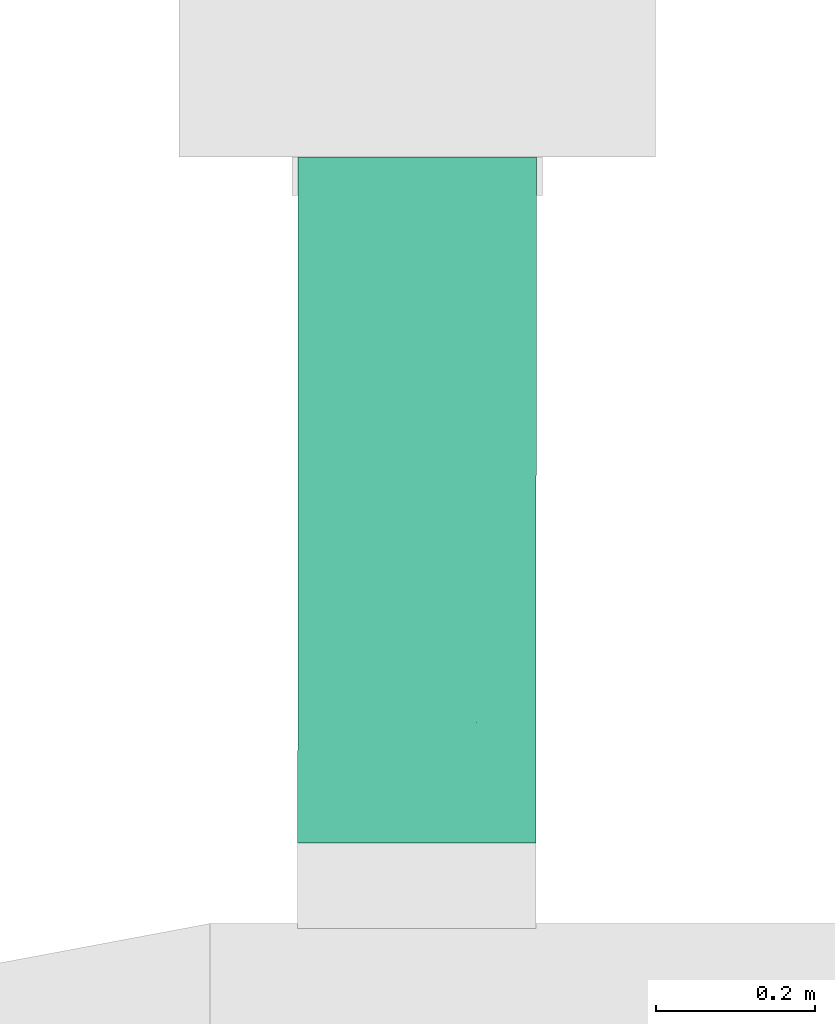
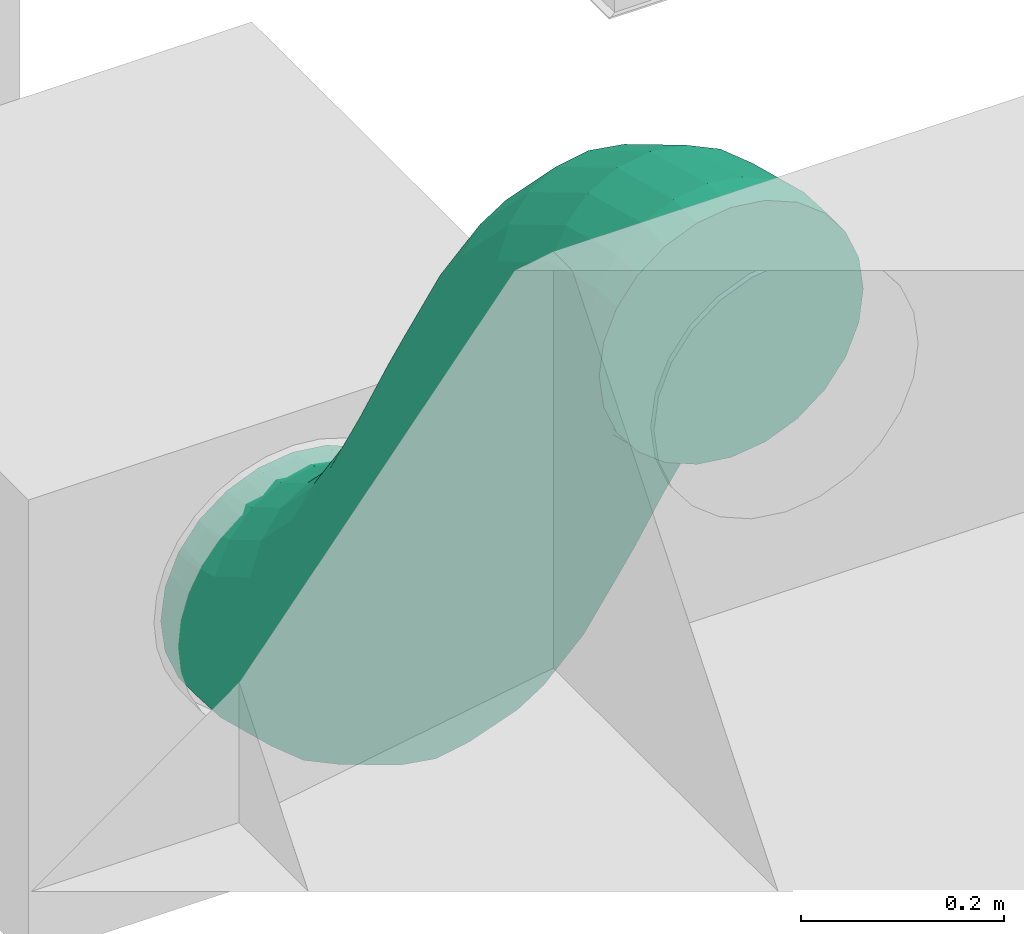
# One storey, part 52 of 60: 1 flow segment.
"""IFC2X3 building model written with IfcOpenShell, lengths in millimetres."""

from ifc_helpers import new_model, entity, si_unit, converted_unit, derived_unit, direction, frame, origin, place, context, subcontext, project, spatial, faceted_brep, type_object, element, save


model = new_model("IFC2X3")

# Units and contexts
model_context = context("Model", 3, precision=0.01, world=origin(), true_north=direction((6.123233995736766e-17, 1.0)))
body_context = subcontext(model_context, "Body", "Model", "MODEL_VIEW")
ifc_project = project(units=[si_unit("LENGTHUNIT", "METRE", prefix="MILLI"), converted_unit("PLANEANGLEUNIT", "DEGREE", entity("IfcPlaneAngleMeasure", 0.017453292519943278), si_unit("PLANEANGLEUNIT", "RADIAN"), dimensions=[0, 0, 0, 0, 0, 0, 0]), si_unit("AREAUNIT", "SQUARE_METRE"), derived_unit("THERMALTRANSMITTANCEUNIT", [(si_unit("MASSUNIT", "GRAM", prefix="KILO"), 1), (si_unit("THERMODYNAMICTEMPERATUREUNIT", "KELVIN"), -1), (si_unit("TIMEUNIT", "SECOND"), -3)])], contexts=[model_context])

# Site, building, storey
site_placement = place(None, origin())
site = spatial("IfcSite", under=ifc_project, at=site_placement, Name="Default", CompositionType="ELEMENT")
building_placement = place(site_placement, origin())
building = spatial("IfcBuilding", under=site, at=building_placement, Name="Praça Pedro II, 1301 - Centro (Sul), Teresina - PI, 64001-100", CompositionType="ELEMENT")
storey_placement = place(building_placement, frame((0.0, 0.0, 6040.0)))
storey = spatial("IfcBuildingStorey", under=building, at=storey_placement, Name="2PAV", CompositionType="ELEMENT", Elevation=6040.0)

# Flow segment
duct_segment_type = type_object("IfcDuctSegmentType", Name="Duto flexível redondo:Flexível - Redondo", PredefinedType="FLEXIBLESEGMENT")
flow_segment_placement = place(storey_placement, frame((26360.48269014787, -57784.321277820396, 2510.904727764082)))
element("IfcFlowSegment", 1, at=flow_segment_placement, inside=storey, type_object=duct_segment_type, Name="Duto flexível redondo:Flexível - Redondo", ObjectType="Duto flexível redondo:Flexível - Redondo", context=body_context, shape_type="Brep", body=[
    faceted_brep([(46.10899363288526, 863.4202829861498, 257.66128941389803), (77.17501081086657, 863.4202829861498, 281.4990828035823), (113.35215404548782, 863.4202829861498, 296.48414617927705), (152.17501081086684, 863.4202829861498, 301.595272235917), (190.99786757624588, 863.4202829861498, 296.48414617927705), (227.17501081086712, 863.4202829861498, 281.4990828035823), (258.24102798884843, 863.4202829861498, 257.66128941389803), (282.07882137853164, 863.4202829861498, 226.59527223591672), (297.06388475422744, 863.4202829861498, 190.4181290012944), (302.1750108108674, 863.4202829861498, 151.59527223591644), (297.06388475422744, 863.4202829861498, 112.7724154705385), (282.07882137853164, 863.4202829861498, 76.59527223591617), (258.24102798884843, 863.4202829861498, 45.52925505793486), (227.17501081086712, 863.4202829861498, 21.691461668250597), (190.99786757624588, 863.4202829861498, 6.706398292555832), (152.17501081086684, 863.4202829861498, 1.5952722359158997), (113.35215404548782, 863.4202829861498, 6.706398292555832), (77.17501081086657, 863.4202829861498, 21.691461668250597), (46.10899363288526, 863.4202829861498, 45.529255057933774), (22.271200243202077, 863.4202829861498, 76.59527223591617), (7.2861368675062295, 863.4202829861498, 112.77241547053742), (2.175010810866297, 863.4202829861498, 151.59527223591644), (7.2861368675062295, 863.4202829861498, 190.4181290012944), (22.271200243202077, 863.4202829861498, 226.59527223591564), (297.06388475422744, 830.4814451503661, 112.77241547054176), (282.07882137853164, 825.817225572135, 76.59527223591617), (258.24102798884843, 821.8129726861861, 45.52925505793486), (302.1750108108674, 835.487772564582, 151.5952722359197), (227.17501081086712, 818.7415697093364, 21.69146166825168), (190.99786757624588, 816.8123276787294, 6.706398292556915), (152.17501081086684, 816.1567212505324, 1.5952722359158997), (113.35215404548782, 816.819428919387, 6.706398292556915), (77.17501081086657, 818.7552882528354, 21.69146166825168), (46.10899363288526, 821.832373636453, 45.52925505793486), (22.271200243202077, 825.8409867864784, 76.59527223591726), (7.2861368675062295, 830.5079473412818, 112.77241547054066), (2.175010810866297, 835.51520965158, 151.59527223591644), (7.2861368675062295, 840.5215370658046, 190.4181290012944), (22.271200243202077, 845.1857566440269, 226.59527223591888), (46.10899363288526, 849.1900095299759, 257.6612894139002), (113.35215404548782, 854.1906545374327, 296.48414617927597), (152.17501081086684, 854.8462609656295, 301.595272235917), (77.17501081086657, 852.2614125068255, 281.4990828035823), (227.1750108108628, 852.2476939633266, 281.4990828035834), (258.2410279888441, 849.1706085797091, 257.6612894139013), (190.99786757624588, 854.1835532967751, 296.48414617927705), (297.06388475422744, 840.4950348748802, 190.41812900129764), (282.07882137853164, 845.1619954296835, 226.59527223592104), (151.5952722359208, 0.0, 1119.0952722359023), (112.77241547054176, 0.0, 1113.9841461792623), (76.5952722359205, 0.0, 1098.9990828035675), (45.52925505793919, 0.0, 1075.1612894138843), (21.69146166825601, 0.0, 1044.095272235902), (6.706398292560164, 0.0, 1007.9181290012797), (1.5952722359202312, 0.0, 969.0952722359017), (6.706398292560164, 0.0, 930.2724154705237), (21.69146166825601, 0.0, 894.0952722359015), (45.52925505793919, 0.0, 863.0292550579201), (76.5952722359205, 0.0, 839.1914616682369), (112.77241547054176, 0.0, 824.2063982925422), (151.5952722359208, 0.0, 819.0952722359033), (190.4181290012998, 0.0, 824.2063982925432), (226.59527223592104, 0.0, 839.1914616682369), (257.66128941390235, 0.0, 863.0292550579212), (281.49908280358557, 0.0, 894.0952722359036), (296.4841461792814, 0.0, 930.2724154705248), (301.59527223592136, 0.0, 969.0952722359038), (296.4841461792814, 0.0, 1007.9181290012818), (281.49908280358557, 0.0, 1044.0952722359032), (257.66128941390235, 0.0, 1075.1612894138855), (226.59527223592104, 0.0, 1098.9990828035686), (190.4181290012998, 0.0, 1113.9841461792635), (302.161503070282, 762.8684763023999, 170.64278504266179), (297.0484832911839, 747.6812610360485, 134.4903010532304), (282.06165560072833, 733.5318654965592, 100.80105042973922), (258.22234753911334, 721.3845476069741, 71.87089992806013), (227.15516855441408, 712.0671270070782, 49.671391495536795), (190.97729555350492, 706.2145705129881, 35.71538494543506), (152.15419079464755, 704.225720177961, 30.95395906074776), (113.33158470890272, 706.2361128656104, 35.7115971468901), (77.15517374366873, 712.1087436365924, 49.66407403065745), (46.090320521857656, 721.4434024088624, 71.86055146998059), (22.254043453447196, 733.6039476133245, 100.78837620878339), (7.270745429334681, 747.7616581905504, 134.47616479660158), (2.161513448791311, 762.9517095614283, 170.62815011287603), (7.27453322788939, 778.1389248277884, 206.78063410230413), (22.26136091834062, 792.2883203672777, 240.469884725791), (46.10066897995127, 804.4356382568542, 269.4000352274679), (77.1678479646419, 813.75305885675, 291.59954365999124), (113.34572096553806, 819.6056153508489, 305.555550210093), (152.16882572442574, 821.5944656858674, 310.31697609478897), (190.99143181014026, 819.5840729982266, 305.5593380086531), (227.16784277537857, 813.7114422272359, 291.6068611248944), (258.23269599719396, 804.3767834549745, 269.4103836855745), (297.0522710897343, 778.0585276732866, 206.79477035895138), (282.0689730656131, 792.2162382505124, 240.48255894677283), (302.1244695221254, 675.544170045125, 222.86447066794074), (297.00764587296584, 651.3875113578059, 192.07589364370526), (282.0172742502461, 628.881600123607, 163.38400691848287), (258.17492370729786, 609.5601770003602, 138.74411515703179), (227.10541103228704, 594.7399650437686, 119.83538626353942), (190.9260721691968, 585.4309372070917, 107.94641886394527), (152.10246927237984, 582.2674883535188, 103.88742643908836), (113.28036672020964, 585.4652022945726, 107.93502261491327), (77.10542664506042, 594.8061601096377, 119.81337040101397), (46.04291143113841, 609.6537909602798, 138.71298002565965), (22.20968015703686, 628.9962533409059, 163.34587432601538), (7.229928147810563, 651.5153904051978, 192.0333622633), (2.1245007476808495, 675.6765601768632, 222.82043894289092), (7.241324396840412, 699.8332188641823, 253.6090159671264), (22.23169601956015, 722.3391300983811, 282.3009026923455), (46.074046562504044, 741.6605532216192, 306.94079445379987), (77.14355923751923, 756.4807651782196, 325.84952334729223), (113.32289810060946, 765.7897930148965, 337.7384907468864), (152.14650099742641, 768.9532418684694, 341.7974831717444), (190.96860354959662, 765.7555279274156, 337.74988699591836), (227.14354362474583, 756.4145701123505, 325.87153920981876), (258.20605883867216, 741.5669392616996, 306.9719295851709), (297.0190421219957, 699.7053398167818, 253.65154734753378), (282.03929011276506, 722.2244768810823, 282.3390352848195), (302.0691416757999, 598.5040095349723, 300.8832817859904), (296.94832476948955, 568.7870192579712, 275.725669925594), (281.95423276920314, 541.1007421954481, 252.27995585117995), (258.1086882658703, 517.3319523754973, 232.14392623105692), (227.03672571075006, 499.1004535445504, 216.68981820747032), (190.85584800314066, 487.6486922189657, 206.97080370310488), (152.03172216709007, 483.7570870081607, 203.64921749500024), (113.2101482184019, 487.69084437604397, 206.95142019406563), (77.03675226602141, 499.181885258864, 216.65237214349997), (45.97669146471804, 517.447114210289, 232.09096949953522), (22.14665762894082, 541.2417860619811, 252.21509736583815), (7.170628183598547, 568.9443332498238, 275.65332968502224), (2.069194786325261, 598.6668729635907, 300.8083896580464), (7.190011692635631, 628.3838632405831, 325.9660015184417), (22.184103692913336, 656.0701403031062, 349.4117155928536), (46.02964819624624, 679.838930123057, 369.5477452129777), (77.1016107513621, 698.0704289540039, 385.00185323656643), (113.28248845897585, 709.5221902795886, 394.72086774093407), (152.1066142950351, 713.4137954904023, 398.0424539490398), (190.9281882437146, 709.4800381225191, 394.74025124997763), (227.10158419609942, 697.9889972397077, 385.03929930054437), (258.1616449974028, 679.7237682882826, 369.6007019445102), (296.96770827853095, 628.2265492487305, 326.03834175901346), (281.9916788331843, 655.9290964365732, 349.4765740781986), (302.00075064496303, 528.8109535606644, 397.3227290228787), (296.87732745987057, 496.4380662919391, 375.8402786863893), (281.8808072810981, 466.27738319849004, 355.81858364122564), (258.0331781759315, 440.3843049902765, 338.62208931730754), (226.95961665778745, 420.5234021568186, 325.4227083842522), (190.7777345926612, 408.0481624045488, 317.1199568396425), (151.95326744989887, 403.80875270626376, 314.2796534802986), (113.13203850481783, 408.0940818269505, 317.0953602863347), (76.95965035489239, 420.61211166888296, 325.3751914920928), (45.901191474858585, 440.5097591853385, 338.55489028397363), (22.073244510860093, 466.4310325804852, 355.7362819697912), (7.099644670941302, 496.60943990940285, 375.7484830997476), (2.0008180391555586, 528.9883725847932, 397.22769523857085), (7.124241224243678, 561.3612598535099, 418.7101455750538), (22.120761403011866, 591.5219429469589, 438.73184062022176), (45.96839050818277, 617.4150211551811, 455.9283349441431), (77.04195202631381, 637.2759239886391, 469.12771587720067), (113.2238340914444, 649.7511637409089, 477.4304674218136), (152.04830123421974, 653.9905734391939, 480.2707707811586), (190.86953017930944, 649.7052443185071, 477.45506397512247), (227.04191832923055, 637.1872144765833, 469.17523276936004), (258.10037720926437, 617.2895669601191, 455.99553397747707), (296.90192401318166, 561.1898862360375, 418.8019411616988), (281.9283241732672, 591.3682935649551, 438.81414229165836), (301.9245231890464, 463.5257715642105, 504.81246303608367), (296.7998680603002, 430.09778328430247, 485.0671990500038), (281.8022001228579, 398.9540996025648, 466.66397956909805), (257.9535856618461, 372.21711109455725, 450.85695358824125), (226.8792683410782, 351.7088993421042, 438.72334380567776), (190.69691153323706, 338.82706508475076, 431.09003567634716), (151.87228306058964, 334.44948403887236, 428.47722653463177), (113.05121719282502, 338.87448111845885, 431.0629750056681), (76.87930541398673, 351.8005000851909, 438.6710666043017), (45.8216037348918, 372.34665410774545, 450.7830224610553), (21.994643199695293, 399.1127567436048, 466.57343280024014), (7.02219179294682, 430.27474233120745, 484.9662072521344), (1.9245973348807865, 463.70897305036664, 504.7079086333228), (7.049252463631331, 497.13696133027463, 524.453172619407), (22.046920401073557, 528.2806450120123, 542.8563921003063), (45.89553486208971, 555.0176335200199, 558.6634180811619), (76.96985218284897, 575.5258452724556, 570.7970278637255), (113.15220899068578, 588.4076795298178, 578.4303359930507), (151.97683746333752, 592.785260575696, 581.0431451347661), (190.79790333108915, 588.3602634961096, 578.4573966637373), (226.96981510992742, 575.4342445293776, 570.8493050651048), (258.027516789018, 554.8880905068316, 558.7373492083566), (296.8269287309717, 496.96000228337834, 524.5541644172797), (281.85447732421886, 528.121987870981, 542.9469388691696), (296.72103058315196, 366.28332165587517, 596.2373718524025), (281.72336264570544, 335.13963797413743, 577.8341523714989), (301.84568571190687, 399.71130993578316, 615.9826358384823), (257.8747481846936, 308.40264946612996, 562.0271263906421), (226.80043086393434, 287.8944377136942, 549.8935166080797), (190.61807405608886, 275.01260345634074, 542.2602084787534), (151.7934455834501, 270.63502241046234, 539.6473993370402), (112.97237971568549, 275.06001949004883, 542.2331478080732), (76.80046793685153, 287.98603845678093, 549.8412394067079), (45.74276625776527, 308.5321924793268, 561.9531952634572), (6.943354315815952, 366.46028070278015, 596.136380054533), (1.8457598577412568, 399.8945114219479, 615.8780814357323), (21.91580572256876, 335.2982951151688, 577.74360560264), (6.970414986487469, 433.3224997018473, 635.6233454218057), (21.968082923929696, 464.466183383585, 654.0265649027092), (45.81669738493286, 491.20317189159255, 669.8335908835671), (76.89101470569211, 511.7113836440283, 681.9672006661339), (113.07337151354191, 524.593217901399, 689.6005087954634), (151.897999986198, 528.9707989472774, 692.2133179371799), (190.71906585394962, 524.5458018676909, 689.6275694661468), (226.89097763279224, 511.61978290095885, 682.0194778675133), (257.9486793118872, 491.073628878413, 669.9075220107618), (281.77563984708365, 464.3075262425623, 654.1171116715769), (296.7480912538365, 433.14554065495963, 635.7243372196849), (296.64604182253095, 302.05902313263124, 701.9803988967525), (281.6495216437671, 271.8983400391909, 681.9587038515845), (301.7694650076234, 334.43191040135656, 723.462849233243), (257.80189253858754, 246.00526183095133, 664.7622095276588), (226.7283310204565, 226.1443589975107, 651.5628285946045), (190.5464489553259, 213.6691192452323, 643.2600770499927), (151.72198181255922, 209.4297095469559, 640.4197736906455), (112.9007528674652, 213.7150386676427, 643.2354804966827), (76.72836471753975, 226.2330685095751, 651.5153117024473), (45.669905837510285, 246.13071602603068, 664.6950104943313), (6.8683590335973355, 302.23039675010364, 701.8886033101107), (1.7695324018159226, 334.6093294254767, 723.3678154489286), (21.841958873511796, 272.051989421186, 681.8764021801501), (6.892955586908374, 366.982216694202, 744.8502657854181), (21.889475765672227, 397.1428997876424, 764.8719608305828), (45.73710487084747, 423.0359779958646, 782.0684551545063), (76.8106663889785, 442.8968808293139, 795.2678360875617), (112.9925484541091, 455.3721205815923, 803.5705876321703), (151.8170155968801, 459.61153027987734, 806.4108909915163), (190.63824454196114, 455.3262011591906, 803.5951841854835), (226.81063269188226, 442.80817131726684, 795.3153529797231), (257.86909157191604, 422.91052380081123, 782.1356541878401), (281.6970385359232, 396.9892504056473, 764.9542625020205), (296.67063837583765, 366.8108430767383, 744.9420613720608), (296.58027135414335, 235.03641974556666, 794.7245429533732), (281.58617935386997, 207.3501426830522, 771.2788288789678), (301.70108826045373, 264.7534100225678, 819.8821548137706), (257.74063485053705, 183.5813528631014, 751.1427992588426), (226.6686722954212, 165.34985403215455, 735.6886912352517), (190.48779458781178, 153.89809270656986, 725.9696767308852), (151.66366875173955, 150.00648749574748, 722.6480905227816), (112.84209480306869, 153.9402448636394, 725.9502932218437), (76.66869885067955, 165.43128574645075, 735.6512451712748), (45.60863804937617, 183.69651469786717, 751.089842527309), (6.802574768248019, 235.19373373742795, 794.652202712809), (1.7011413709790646, 264.91627345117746, 819.8072626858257), (21.778604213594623, 207.49118654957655, 771.2139703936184), (6.821958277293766, 294.6332637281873, 844.9648745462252), (21.81605027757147, 322.3195407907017, 868.4105886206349), (45.66159478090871, 346.0883306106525, 888.5466182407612), (76.73355733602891, 364.3198294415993, 904.00072626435), (112.9144350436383, 375.771590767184, 913.7197407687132), (151.73856087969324, 379.66319597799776, 917.0413269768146), (190.56013482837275, 375.72943861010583, 913.7391242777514), (226.7335307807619, 364.2383977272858, 904.0381723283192), (257.7935915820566, 345.9731687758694, 888.5995749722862), (281.6236254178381, 322.17849692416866, 868.4754471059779), (296.59965486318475, 294.47594973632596, 845.0372147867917), (296.52895864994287, 163.58706412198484, 867.081528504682), (281.5385870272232, 141.08115288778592, 838.3896417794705), (301.64578229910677, 187.74372280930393, 897.8701055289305), (257.69623648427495, 121.75972976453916, 813.749750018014), (226.62672380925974, 106.93951780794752, 794.8410211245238), (190.4473849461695, 97.63048997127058, 782.9520537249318), (151.6237820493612, 94.46704111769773, 778.8930613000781), (112.80167949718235, 97.66475505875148, 782.940657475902), (76.62673942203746, 107.00571287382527, 794.8190052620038), (45.56422420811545, 121.85334372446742, 813.7186148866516), (6.751240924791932, 163.71494316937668, 867.0389971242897), (1.6458135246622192, 187.8761129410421, 897.826073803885), (21.73099293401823, 141.1958061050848, 838.3515091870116), (6.762637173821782, 212.0327716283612, 928.6146508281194), (21.753008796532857, 234.53868286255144, 957.3065375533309), (45.595359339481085, 253.8601059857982, 981.9464293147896), (76.66487201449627, 268.6803179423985, 1000.855158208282), (112.84421087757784, 277.9893457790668, 1012.7441256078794), (151.6678137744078, 281.1527946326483, 1016.8031180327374), (190.48991632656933, 277.95508069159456, 1012.7555218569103), (226.66485640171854, 268.6141228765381, 1000.8771740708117), (257.72737161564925, 253.76649202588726, 981.9775644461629), (281.56060288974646, 234.42402964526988, 957.3446701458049), (296.54035489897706, 211.90489258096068, 928.6571822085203), (296.49574981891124, 85.28135815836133, 913.9099103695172), (281.50892212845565, 71.1319626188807, 880.220659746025), (301.608769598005, 100.46857342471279, 950.0623943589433), (257.66961406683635, 58.98464472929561, 851.2905092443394), (226.60243508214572, 49.66722412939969, 829.0910008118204), (190.4245620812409, 43.8146676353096, 815.1349942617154), (151.60145732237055, 41.82581730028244, 810.3735683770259), (112.7788512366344, 43.8362099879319, 815.1312064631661), (76.60244027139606, 49.70884075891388, 829.0836833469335), (45.53758704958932, 59.043499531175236, 851.2801607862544), (6.7180119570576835, 85.36175531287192, 913.8957741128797), (1.6087799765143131, 100.55180668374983, 950.0477594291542), (21.70130998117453, 71.20404473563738, 880.2079855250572), (6.721799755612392, 115.73902195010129, 986.2002434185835), (21.708627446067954, 129.88841748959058, 1019.8894940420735), (45.54793550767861, 142.035735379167, 1048.8196445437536), (76.61511449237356, 151.35315597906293, 1071.0191529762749), (112.79298749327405, 157.20571247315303, 1084.9751595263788), (151.61609225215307, 159.19456280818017, 1089.7365854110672), (190.43869833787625, 157.18417012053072, 1084.9789473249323), (226.61510930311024, 151.31153934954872, 1071.0264704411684), (257.67996252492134, 141.97688057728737, 1048.8299930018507), (281.51623959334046, 129.81633537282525, 1019.9021682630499), (296.4995376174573, 115.65862479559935, 986.2143796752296), (296.4841461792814, 22.89874592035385, 930.272415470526), (281.49908280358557, 18.23452634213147, 894.0952722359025), (301.59527223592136, 27.90507333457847, 969.0952722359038), (257.66128941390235, 14.230273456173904, 863.0292550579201), (226.59527223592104, 11.158870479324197, 839.1914616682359), (190.4181290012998, 9.229628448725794, 824.206398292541), (151.5952722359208, 8.5740220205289, 819.0952722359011), (112.77241547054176, 9.236729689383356, 824.206398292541), (76.5952722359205, 11.172589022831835, 839.1914616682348), (45.52925505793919, 14.24967440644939, 863.0292550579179), (6.706398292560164, 22.925248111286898, 930.2724154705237), (1.5952722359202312, 27.93251042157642, 969.0952722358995), (21.69146166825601, 18.258287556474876, 894.0952722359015), (6.706398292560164, 32.938837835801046, 1007.9181290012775), (21.69146166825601, 37.60305741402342, 1044.095272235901), (45.52925505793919, 41.60731029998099, 1075.1612894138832), (76.5952722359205, 44.6787132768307, 1098.9990828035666), (112.77241547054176, 46.6079553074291, 1113.9841461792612), (151.5952722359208, 47.26356173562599, 1119.0952722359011), (190.41812900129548, 46.60085406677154, 1113.9841461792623), (226.59527223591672, 44.66499473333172, 1098.9990828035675), (257.66128941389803, 41.587909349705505, 1075.1612894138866), (281.49908280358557, 37.579296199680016, 1044.0952722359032), (296.4841461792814, 32.912335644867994, 1007.918129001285)], [[[0, 1, 2, 3, 4, 5, 6, 7, 8, 9, 10, 11, 12, 13, 14, 15, 16, 17, 18, 19, 20, 21, 22, 23]], [[11, 10, 24, 25]], [[12, 11, 25, 26]], [[9, 27, 24, 10]], [[14, 13, 28, 29]], [[15, 14, 29, 30]], [[12, 26, 28, 13]], [[15, 30, 31, 16]], [[16, 31, 32, 17]], [[17, 32, 33, 18]], [[19, 34, 35, 20]], [[20, 35, 36, 21]], [[18, 33, 34, 19]], [[37, 38, 23, 22]], [[36, 37, 22, 21]], [[23, 38, 39, 0]], [[40, 41, 3, 2]], [[42, 40, 2, 1]], [[0, 39, 42, 1]], [[5, 43, 44, 6]], [[45, 43, 5, 4]], [[3, 41, 45, 4]], [[46, 27, 9, 8]], [[47, 46, 8, 7]], [[44, 47, 7, 6]], [[48, 49, 50, 51, 52, 53, 54, 55, 56, 57, 58, 59, 60, 61, 62, 63, 64, 65, 66, 67, 68, 69, 70, 71]], [[24, 27, 72, 73]], [[25, 24, 73, 74]], [[26, 25, 74, 75]], [[29, 28, 76, 77]], [[30, 29, 77, 78]], [[75, 76, 28, 26]], [[30, 78, 79, 31]], [[31, 79, 80, 32]], [[32, 80, 81, 33]], [[33, 81, 82, 34]], [[34, 82, 83, 35]], [[84, 36, 35, 83]], [[85, 86, 38, 37]], [[84, 85, 37, 36]], [[87, 39, 38, 86]], [[88, 89, 40, 42]], [[88, 42, 39, 87]], [[90, 41, 40, 89]], [[91, 92, 43, 45]], [[90, 91, 45, 41]], [[44, 43, 92, 93]], [[94, 72, 27, 46]], [[95, 94, 46, 47]], [[93, 95, 47, 44]], [[72, 96, 97, 73]], [[73, 97, 98, 74]], [[99, 75, 74, 98]], [[76, 100, 101, 77]], [[77, 101, 102, 78]], [[100, 76, 75, 99]], [[79, 78, 102, 103]], [[80, 79, 103, 104]], [[104, 105, 81, 80]], [[82, 81, 105, 106]], [[83, 82, 106, 107]], [[84, 83, 107, 108]], [[109, 110, 86, 85]], [[108, 109, 85, 84]], [[87, 86, 110, 111]], [[112, 113, 89, 88]], [[111, 112, 88, 87]], [[90, 89, 113, 114]], [[115, 116, 92, 91]], [[114, 115, 91, 90]], [[117, 93, 92, 116]], [[118, 96, 72, 94]], [[119, 118, 94, 95]], [[119, 95, 93, 117]], [[96, 120, 121, 97]], [[97, 121, 122, 98]], [[123, 99, 98, 122]], [[100, 124, 125, 101]], [[101, 125, 126, 102]], [[124, 100, 99, 123]], [[103, 102, 126, 127]], [[104, 103, 127, 128]], [[128, 129, 105, 104]], [[106, 105, 129, 130]], [[107, 106, 130, 131]], [[108, 107, 131, 132]], [[133, 134, 110, 109]], [[132, 133, 109, 108]], [[111, 110, 134, 135]], [[136, 137, 113, 112]], [[135, 136, 112, 111]], [[114, 113, 137, 138]], [[139, 140, 116, 115]], [[138, 139, 115, 114]], [[141, 117, 116, 140]], [[142, 120, 96, 118]], [[143, 142, 118, 119]], [[143, 119, 117, 141]], [[120, 144, 145, 121]], [[121, 145, 146, 122]], [[147, 123, 122, 146]], [[124, 148, 149, 125]], [[125, 149, 150, 126]], [[148, 124, 123, 147]], [[127, 126, 150, 151]], [[128, 127, 151, 152]], [[152, 153, 129, 128]], [[130, 129, 153, 154]], [[131, 130, 154, 155]], [[132, 131, 155, 156]], [[157, 158, 134, 133]], [[156, 157, 133, 132]], [[135, 134, 158, 159]], [[160, 161, 137, 136]], [[159, 160, 136, 135]], [[138, 137, 161, 162]], [[163, 164, 140, 139]], [[162, 163, 139, 138]], [[165, 141, 140, 164]], [[166, 144, 120, 142]], [[167, 166, 142, 143]], [[167, 143, 141, 165]], [[144, 168, 169, 145]], [[145, 169, 170, 146]], [[171, 147, 146, 170]], [[148, 172, 173, 149]], [[149, 173, 174, 150]], [[172, 148, 147, 171]], [[151, 150, 174, 175]], [[152, 151, 175, 176]], [[176, 177, 153, 152]], [[154, 153, 177, 178]], [[155, 154, 178, 179]], [[156, 155, 179, 180]], [[181, 182, 158, 157]], [[180, 181, 157, 156]], [[159, 158, 182, 183]], [[184, 185, 161, 160]], [[183, 184, 160, 159]], [[162, 161, 185, 186]], [[187, 188, 164, 163]], [[186, 187, 163, 162]], [[189, 165, 164, 188]], [[190, 168, 144, 166]], [[191, 190, 166, 167]], [[191, 167, 165, 189]], [[192, 193, 170, 169]], [[194, 192, 169, 168]], [[195, 171, 170, 193]], [[196, 197, 173, 172]], [[196, 172, 171, 195]], [[198, 174, 173, 197]], [[199, 200, 176, 175]], [[198, 199, 175, 174]], [[200, 201, 177, 176]], [[202, 203, 180, 179]], [[204, 202, 179, 178]], [[201, 204, 178, 177]], [[181, 180, 203, 205]], [[182, 181, 205, 206]], [[183, 182, 206, 207]], [[185, 184, 208, 209]], [[186, 185, 209, 210]], [[207, 208, 184, 183]], [[186, 210, 211, 187]], [[187, 211, 212, 188]], [[213, 189, 188, 212]], [[189, 213, 214, 191]], [[191, 214, 215, 190]], [[194, 168, 190, 215]], [[216, 217, 193, 192]], [[218, 216, 192, 194]], [[219, 195, 193, 217]], [[220, 221, 197, 196]], [[220, 196, 195, 219]], [[222, 198, 197, 221]], [[223, 224, 200, 199]], [[222, 223, 199, 198]], [[201, 200, 224, 225]], [[226, 227, 203, 202]], [[228, 226, 202, 204]], [[225, 228, 204, 201]], [[205, 203, 227, 229]], [[206, 205, 229, 230]], [[207, 206, 230, 231]], [[209, 208, 232, 233]], [[210, 209, 233, 234]], [[231, 232, 208, 207]], [[210, 234, 235, 211]], [[211, 235, 236, 212]], [[212, 236, 237, 213]], [[213, 237, 238, 214]], [[214, 238, 239, 215]], [[218, 194, 215, 239]], [[240, 241, 217, 216]], [[242, 240, 216, 218]], [[243, 219, 217, 241]], [[244, 245, 221, 220]], [[244, 220, 219, 243]], [[246, 222, 221, 245]], [[247, 248, 224, 223]], [[246, 247, 223, 222]], [[225, 224, 248, 249]], [[250, 251, 227, 226]], [[252, 250, 226, 228]], [[249, 252, 228, 225]], [[229, 227, 251, 253]], [[230, 229, 253, 254]], [[231, 230, 254, 255]], [[233, 232, 256, 257]], [[234, 233, 257, 258]], [[255, 256, 232, 231]], [[234, 258, 259, 235]], [[235, 259, 260, 236]], [[236, 260, 261, 237]], [[237, 261, 262, 238]], [[238, 262, 263, 239]], [[242, 218, 239, 263]], [[264, 265, 241, 240]], [[266, 264, 240, 242]], [[267, 243, 241, 265]], [[268, 269, 245, 244]], [[268, 244, 243, 267]], [[270, 246, 245, 269]], [[271, 272, 248, 247]], [[270, 271, 247, 246]], [[249, 248, 272, 273]], [[274, 275, 251, 250]], [[276, 274, 250, 252]], [[273, 276, 252, 249]], [[253, 251, 275, 277]], [[254, 253, 277, 278]], [[255, 254, 278, 279]], [[257, 256, 280, 281]], [[258, 257, 281, 282]], [[279, 280, 256, 255]], [[258, 282, 283, 259]], [[259, 283, 284, 260]], [[260, 284, 285, 261]], [[261, 285, 286, 262]], [[262, 286, 287, 263]], [[266, 242, 263, 287]], [[288, 289, 265, 264]], [[290, 288, 264, 266]], [[291, 267, 265, 289]], [[292, 293, 269, 268]], [[292, 268, 267, 291]], [[294, 270, 269, 293]], [[295, 296, 272, 271]], [[294, 295, 271, 270]], [[273, 272, 296, 297]], [[298, 299, 275, 274]], [[300, 298, 274, 276]], [[297, 300, 276, 273]], [[277, 275, 299, 301]], [[278, 277, 301, 302]], [[279, 278, 302, 303]], [[281, 280, 304, 305]], [[282, 281, 305, 306]], [[303, 304, 280, 279]], [[282, 306, 307, 283]], [[283, 307, 308, 284]], [[284, 308, 309, 285]], [[285, 309, 310, 286]], [[286, 310, 311, 287]], [[290, 266, 287, 311]], [[312, 313, 289, 288]], [[314, 312, 288, 290]], [[291, 289, 313, 315]], [[316, 317, 293, 292]], [[315, 316, 292, 291]], [[294, 293, 317, 318]], [[319, 320, 296, 295]], [[318, 319, 295, 294]], [[321, 297, 296, 320]], [[322, 323, 299, 298]], [[324, 322, 298, 300]], [[324, 300, 297, 321]], [[299, 323, 325, 301]], [[301, 325, 326, 302]], [[327, 303, 302, 326]], [[304, 328, 329, 305]], [[305, 329, 330, 306]], [[328, 304, 303, 327]], [[307, 306, 330, 331]], [[308, 307, 331, 332]], [[332, 333, 309, 308]], [[310, 309, 333, 334]], [[311, 310, 334, 335]], [[290, 311, 335, 314]], [[312, 314, 66, 65]], [[313, 312, 65, 64]], [[315, 313, 64, 63]], [[317, 316, 62, 61]], [[318, 317, 61, 60]], [[315, 63, 62, 316]], [[318, 60, 59, 319]], [[319, 59, 58, 320]], [[320, 58, 57, 321]], [[324, 56, 55, 322]], [[322, 55, 54, 323]], [[324, 321, 57, 56]], [[323, 54, 53, 325]], [[325, 53, 52, 326]], [[326, 52, 51, 327]], [[328, 50, 49, 329]], [[329, 49, 48, 330]], [[327, 51, 50, 328]], [[331, 330, 48, 71]], [[332, 331, 71, 70]], [[333, 332, 70, 69]], [[335, 334, 68, 67]], [[314, 335, 67, 66]], [[69, 68, 334, 333]]]),
])

save(model, "model.ifc")
